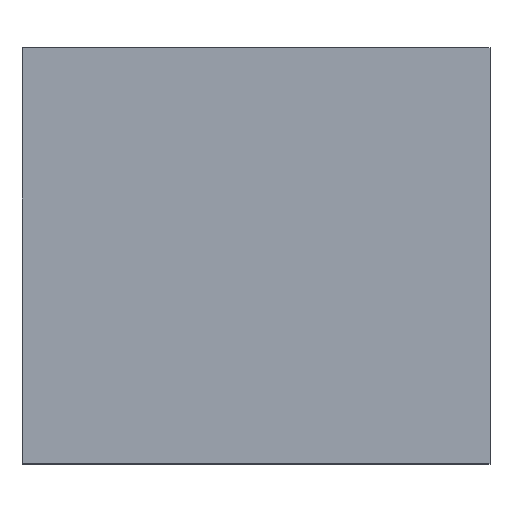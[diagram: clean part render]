
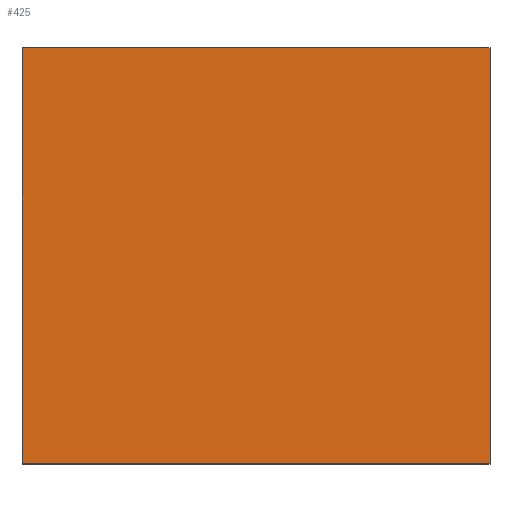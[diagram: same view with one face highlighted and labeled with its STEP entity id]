
A CAD part, top view. The second image highlights one B-rep face of the part: STEP entity #425.
In plain terms, the highlighted planar face has unit normal (0, 0, 1).
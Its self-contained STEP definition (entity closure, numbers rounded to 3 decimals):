
#1 = VECTOR ( 'NONE', #550, 1000. ) ;
#8 = LINE ( 'NONE', #370, #325 ) ;
#11 = EDGE_CURVE ( 'NONE', #481, #572, #8, .T. ) ;
#20 = ORIENTED_EDGE ( 'NONE', *, *, #1049, .F. ) ;
#105 = EDGE_LOOP ( 'NONE', ( #429, #1003, #20, #839 ) ) ;
#170 = CARTESIAN_POINT ( 'NONE',  ( 90., -40., 40. ) ) ;
#177 = CARTESIAN_POINT ( 'NONE',  ( 0., -40., 40. ) ) ;
#194 = CARTESIAN_POINT ( 'NONE',  ( 90., -40., 40. ) ) ;
#325 = VECTOR ( 'NONE', #1088, 1000. ) ;
#335 = CARTESIAN_POINT ( 'NONE',  ( 90., 40., 40. ) ) ;
#350 = DIRECTION ( 'NONE',  ( 0., 0., -1. ) ) ;
#370 = CARTESIAN_POINT ( 'NONE',  ( 90., -40., 40. ) ) ;
#425 = ADVANCED_FACE ( 'NONE', ( #605 ), #590, .F. ) ;
#426 = CARTESIAN_POINT ( 'NONE',  ( 0., 40., 40. ) ) ;
#429 = ORIENTED_EDGE ( 'NONE', *, *, #581, .T. ) ;
#440 = DIRECTION ( 'NONE',  ( 0., -1., 0. ) ) ;
#481 = VERTEX_POINT ( 'NONE', #194 ) ;
#550 = DIRECTION ( 'NONE',  ( 0., -1., 0. ) ) ;
#561 = VECTOR ( 'NONE', #440, 1000. ) ;
#572 = VERTEX_POINT ( 'NONE', #1071 ) ;
#581 = EDGE_CURVE ( 'NONE', #800, #572, #812, .T. ) ;
#590 = PLANE ( 'NONE',  #748 ) ;
#605 = FACE_OUTER_BOUND ( 'NONE', #105, .T. ) ;
#633 = CARTESIAN_POINT ( 'NONE',  ( 90., -40., 40. ) ) ;
#701 = LINE ( 'NONE', #974, #941 ) ;
#719 = VERTEX_POINT ( 'NONE', #335 ) ;
#748 = AXIS2_PLACEMENT_3D ( 'NONE', #170, #350, #835 ) ;
#800 = VERTEX_POINT ( 'NONE', #426 ) ;
#804 = DIRECTION ( 'NONE',  ( -1., 0., 0. ) ) ;
#812 = LINE ( 'NONE', #177, #1 ) ;
#827 = EDGE_CURVE ( 'NONE', #719, #800, #701, .T. ) ;
#835 = DIRECTION ( 'NONE',  ( -1., 0., 0. ) ) ;
#839 = ORIENTED_EDGE ( 'NONE', *, *, #827, .T. ) ;
#904 = LINE ( 'NONE', #633, #561 ) ;
#941 = VECTOR ( 'NONE', #804, 1000. ) ;
#974 = CARTESIAN_POINT ( 'NONE',  ( 90., 40., 40. ) ) ;
#1003 = ORIENTED_EDGE ( 'NONE', *, *, #11, .F. ) ;
#1049 = EDGE_CURVE ( 'NONE', #719, #481, #904, .T. ) ;
#1071 = CARTESIAN_POINT ( 'NONE',  ( 0., -40., 40. ) ) ;
#1088 = DIRECTION ( 'NONE',  ( -1., 0., 0. ) ) ;
